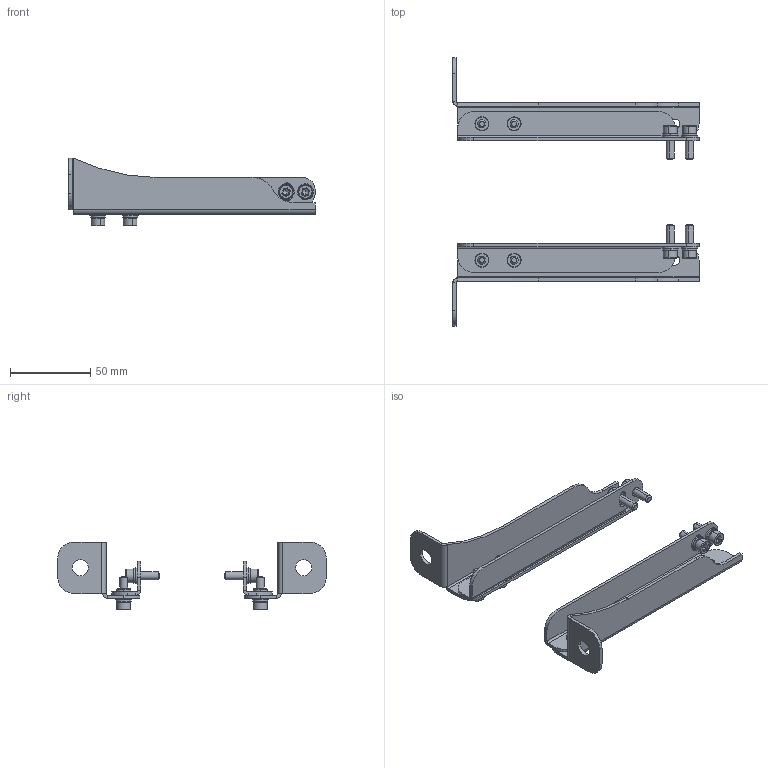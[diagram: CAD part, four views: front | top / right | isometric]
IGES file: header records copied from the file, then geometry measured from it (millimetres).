
Start section: SolidWorks IGES file using analytic representation for surfaces
Global section: file name: C:\Users\User\Desktop\Àêñåññóàðû Outliner S\Êðîíøòåéí Outliner S òåëåñêîïè÷åñêèé 175_275.IGS; native system: SolidWorks 2020; preprocessor: SolidWorks 2020; author: User; date: 231115.182212; units: millimetre
Bounding box: 153.07 x 166.79 x 42.2 mm (x, y, z)
Volume: 50653.6 mm3; surface area: 57123.7 mm2
Topology: 32 solids, 32 shells, 704 faces, 1604 edges, 888 vertices
Faces by surface type: revolution 454, plane 200, bspline 50
